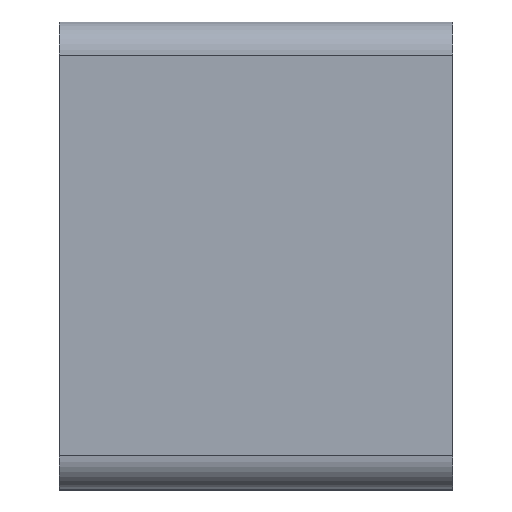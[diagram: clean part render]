
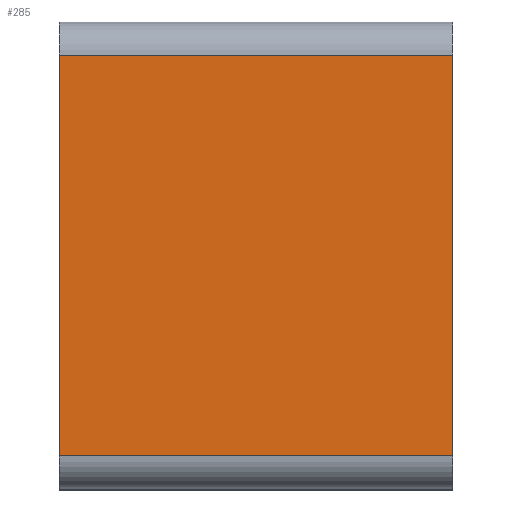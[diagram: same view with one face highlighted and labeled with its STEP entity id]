
A CAD part, top view. The second image highlights one B-rep face of the part: STEP entity #285.
In plain terms, the highlighted planar face has unit normal (0, 0, 1).
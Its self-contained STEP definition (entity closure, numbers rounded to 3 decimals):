
#55=ORIENTED_EDGE('',*,*,#121,.T.);
#56=ORIENTED_EDGE('',*,*,#129,.T.);
#57=ORIENTED_EDGE('',*,*,#130,.T.);
#58=ORIENTED_EDGE('',*,*,#131,.T.);
#121=EDGE_CURVE('',#160,#159,#182,.T.);
#129=EDGE_CURVE('',#159,#165,#189,.T.);
#130=EDGE_CURVE('',#165,#166,#190,.T.);
#131=EDGE_CURVE('',#166,#160,#191,.T.);
#159=VERTEX_POINT('',#441);
#160=VERTEX_POINT('',#443);
#165=VERTEX_POINT('',#459);
#166=VERTEX_POINT('',#461);
#182=LINE('',#442,#210);
#189=LINE('',#458,#217);
#190=LINE('',#460,#218);
#191=LINE('',#462,#219);
#210=VECTOR('',#354,1000.);
#217=VECTOR('',#369,1000.);
#218=VECTOR('',#370,1000.);
#219=VECTOR('',#371,1000.);
#235=EDGE_LOOP('',(#55,#56,#57,#58));
#255=FACE_BOUND('',#235,.T.);
#274=PLANE('',#318);
#285=ADVANCED_FACE('',(#255),#274,.T.);
#318=AXIS2_PLACEMENT_3D('',#457,#367,#368);
#354=DIRECTION('',(0.,-1.,0.));
#367=DIRECTION('',(0.,0.,1.));
#368=DIRECTION('',(1.,0.,0.));
#369=DIRECTION('',(1.,0.,0.));
#370=DIRECTION('',(0.,1.,0.));
#371=DIRECTION('',(-1.,0.,0.));
#441=CARTESIAN_POINT('',(-5.15,-6.,14.5));
#442=CARTESIAN_POINT('',(-5.15,7.,14.5));
#443=CARTESIAN_POINT('',(-5.15,6.,14.5));
#457=CARTESIAN_POINT('',(0.,0.,14.5));
#458=CARTESIAN_POINT('',(4.65,-6.,14.5));
#459=CARTESIAN_POINT('',(6.65,-6.,14.5));
#460=CARTESIAN_POINT('',(6.65,-6.,14.5));
#461=CARTESIAN_POINT('',(6.65,6.,14.5));
#462=CARTESIAN_POINT('',(-4.65,6.,14.5));
